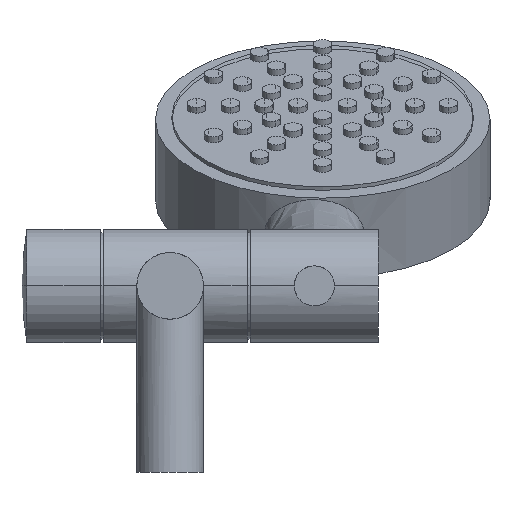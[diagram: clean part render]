
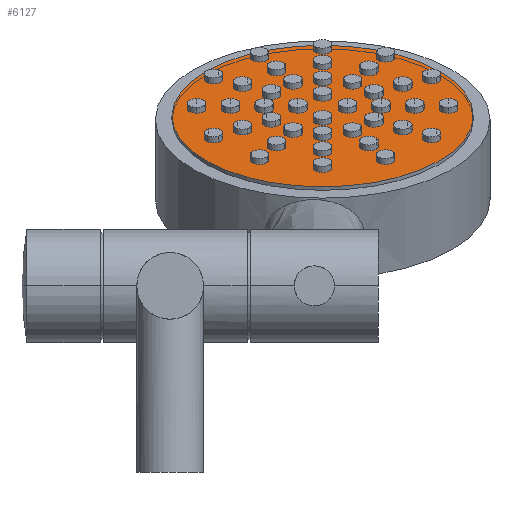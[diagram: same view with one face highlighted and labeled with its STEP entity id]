
A CAD part, front view. The second image highlights one B-rep face of the part: STEP entity #6127.
In plain terms, the highlighted planar face has unit normal (0, -0.469, 0.883).
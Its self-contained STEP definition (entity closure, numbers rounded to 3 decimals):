
#6127 = ADVANCED_FACE('',(#6128),#6148,.T.);
#6128 = FACE_BOUND('',#6129,.T.);
#6129 = EDGE_LOOP('',(#6130,#6141));
#6130 = ORIENTED_EDGE('',*,*,#6131,.T.);
#6131 = EDGE_CURVE('',#6132,#6134,#6136,.T.);
#6132 = VERTEX_POINT('',#6133);
#6133 = CARTESIAN_POINT('',(90.968,669.617,
    106.943));
#6134 = VERTEX_POINT('',#6135);
#6135 = CARTESIAN_POINT('',(0.536,669.617,
    106.943));
#6136 = CIRCLE('',#6137,45.216);
#6137 = AXIS2_PLACEMENT_3D('',#6138,#6139,#6140);
#6138 = CARTESIAN_POINT('',(45.752,669.617,
    106.943));
#6139 = DIRECTION('',(0.,-0.469,0.883
    ));
#6140 = DIRECTION('',(-1.,0.,0.));
#6141 = ORIENTED_EDGE('',*,*,#6142,.T.);
#6142 = EDGE_CURVE('',#6134,#6132,#6143,.T.);
#6143 = CIRCLE('',#6144,45.216);
#6144 = AXIS2_PLACEMENT_3D('',#6145,#6146,#6147);
#6145 = CARTESIAN_POINT('',(45.752,669.617,
    106.943));
#6146 = DIRECTION('',(0.,-0.469,0.883
    ));
#6147 = DIRECTION('',(-1.,0.,0.));
#6148 = PLANE('',#6149);
#6149 = AXIS2_PLACEMENT_3D('',#6150,#6151,#6152);
#6150 = CARTESIAN_POINT('',(0.536,669.617,
    106.943));
#6151 = DIRECTION('',(0.,-0.469,0.883)
  );
#6152 = DIRECTION('',(0.,-0.883,
    -0.469));
